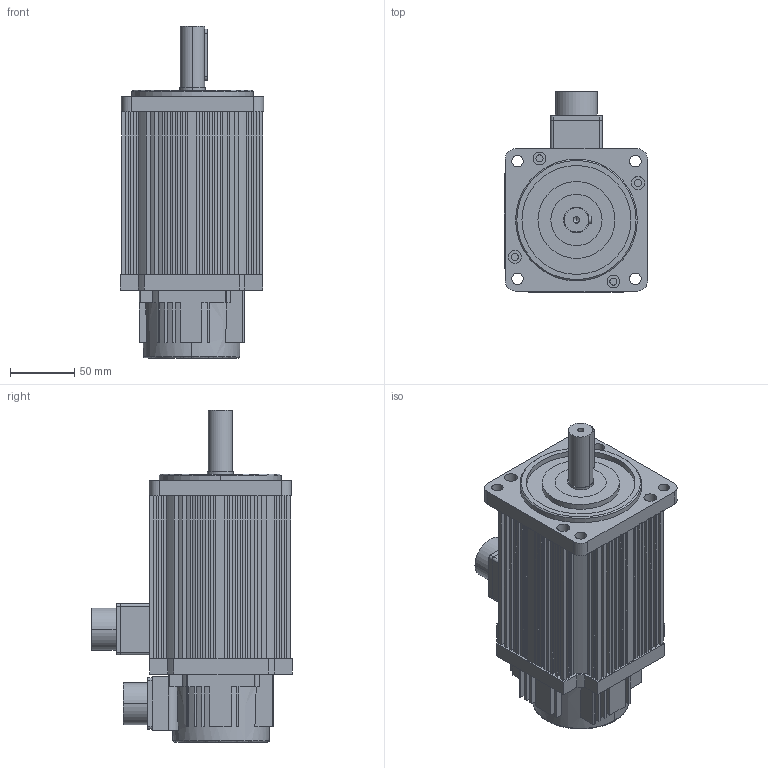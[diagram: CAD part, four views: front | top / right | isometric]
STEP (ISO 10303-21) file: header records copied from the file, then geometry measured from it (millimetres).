
FILE_DESCRIPTION (( 'STEP AP203' ), '1' );
FILE_NAME ('ASMJ-11-1530B-D322.STEP', '2024-06-03T09:12:41', ( 'Admin' ), ( '' ), 'SwSTEP 2.0', 'SolidWorks 2018', '' );
FILE_SCHEMA (( 'CONFIG_CONTROL_DESIGN' ));
Length unit declared in the file: millimetre
Products named in the file (1): ASMJ-11-1530B-D322
Bounding box: 111.7 x 156.5 x 259 mm (x, y, z)
Volume: 691395 mm3; surface area: 328370.9 mm2
Topology: 10 solids, 10 shells, 817 faces, 2213 edges, 1408 vertices
Faces by surface type: plane 439, cylinder 296, bspline 41, cone 41
Entity records: 27144 total; most frequent: CARTESIAN_POINT 6480, ORIENTED_EDGE 4278, DIRECTION 4277, EDGE_CURVE 2139, AXIS2_PLACEMENT_3D 1455, VERTEX_POINT 1408, LINE 1367, VECTOR 1367
